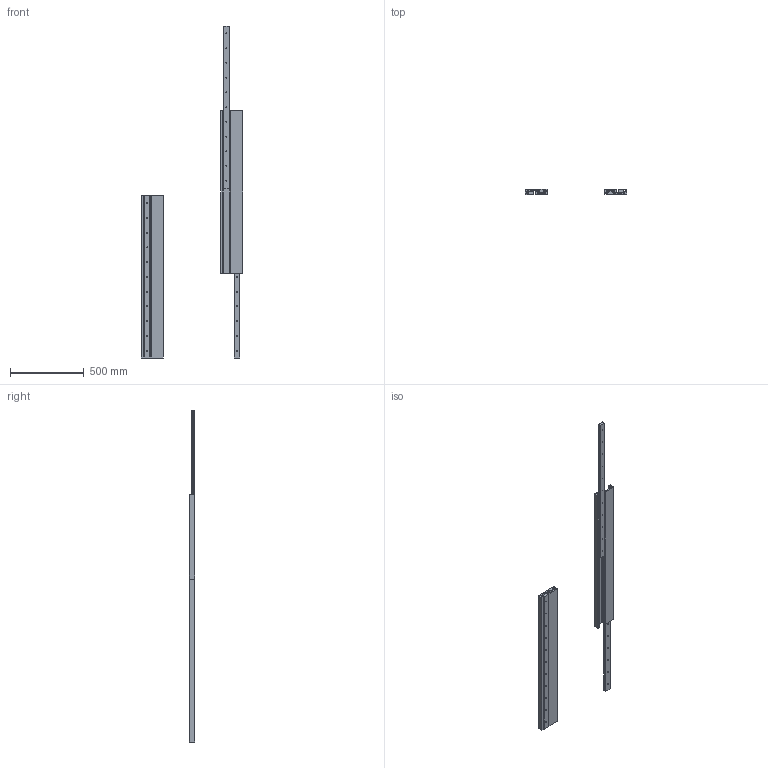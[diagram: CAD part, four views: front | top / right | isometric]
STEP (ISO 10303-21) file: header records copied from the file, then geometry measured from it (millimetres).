
FILE_DESCRIPTION((''),'2;1');
FILE_NAME('D:\01 WORK\DIST\02172A-Drawings for website\4140\STEP\4140-0110.stp','2008-10-24T11:44:10',('jtaylor'),(''),'Autodesk Inventor 2009','Autodesk Inventor 2009','');
FILE_SCHEMA(('AUTOMOTIVE_DESIGN { 1 0 10303 214 1 1 1 1 }'));
Length unit declared in the file: millimetre
Products named in the file (3): 4140-0110; 4140-0110 IM; 4140-0110 OM
Assembly tree (6 placements, depth 2):
  4140-0110
    4140-0110 IM  x4
    4140-0110 OM  x2
Bounding box: 689 x 38 x 2253 mm (x, y, z)
Volume: 7990329.1 mm3; surface area: 1618101.8 mm2
Topology: 6 solids, 6 shells, 152 faces, 464 edges, 324 vertices
Faces by surface type: plane 68, bspline 44, cylinder 40
Entity records: 2038 total; most frequent: CARTESIAN_POINT 495, DIRECTION 306, ORIENTED_EDGE 284, EDGE_CURVE 142, AXIS2_PLACEMENT_3D 111, VERTEX_POINT 102, EDGE_LOOP 88, VECTOR 84
